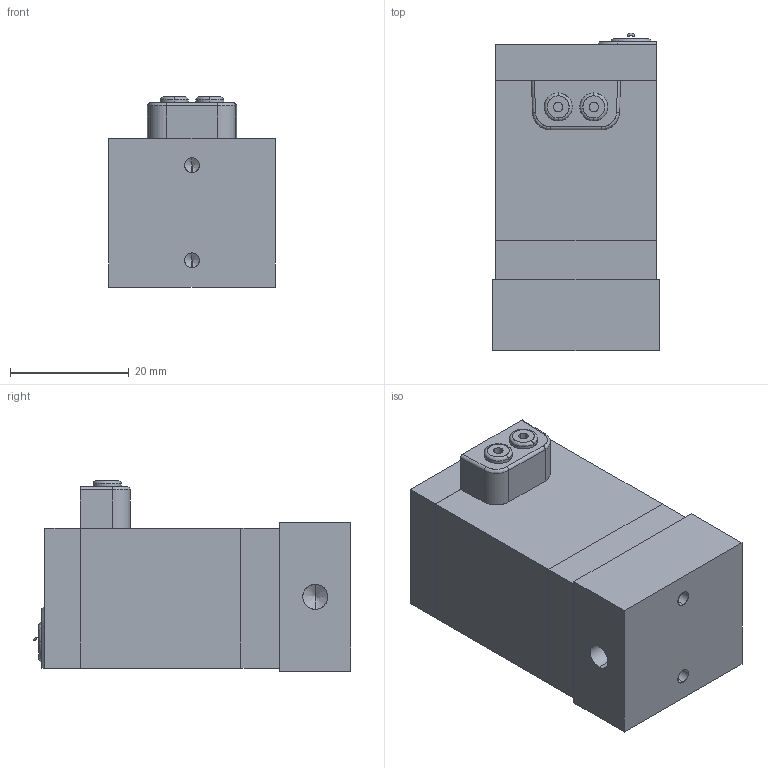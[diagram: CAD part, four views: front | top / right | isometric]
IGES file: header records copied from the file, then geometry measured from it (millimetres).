
Start section: SolidWorks IGES file using analytic representation for surfaces
Global section: file name: C:\Users\Toshiba\Desktop\SS231-M5-#L#.IGS; native system: SolidWorks 2014; preprocessor: SolidWorks 2014; author: Toshiba; date: 160801.111633; units: millimetre
Bounding box: 28 x 53.47 x 32 mm (x, y, z)
Surface area: 11881.2 mm2 (no closed solid volume)
Topology: 0 solids, 0 shells, 165 faces, 1680 edges, 1668 vertices
Faces by surface type: bspline 97, revolution 68
